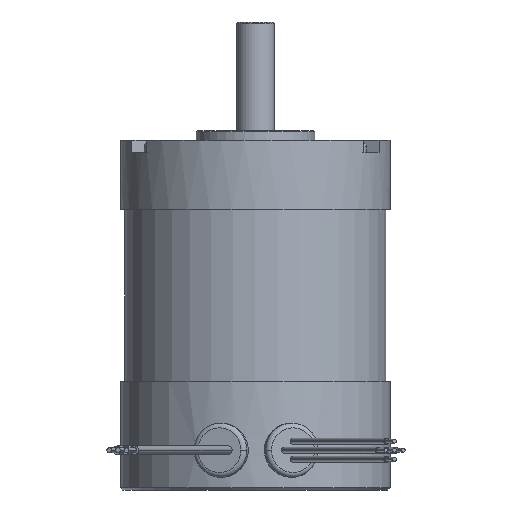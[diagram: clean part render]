
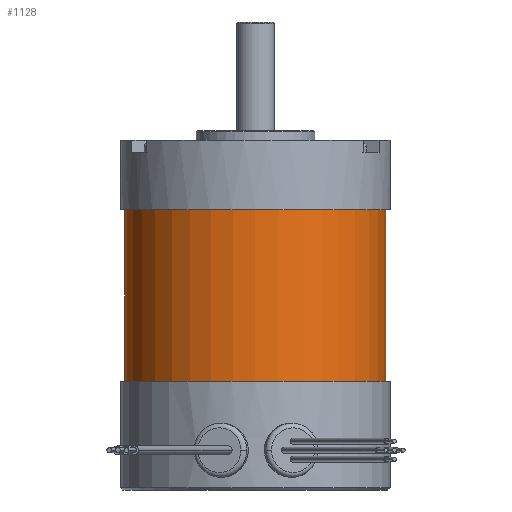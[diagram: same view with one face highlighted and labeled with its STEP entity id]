
A CAD part, front view. The second image highlights one B-rep face of the part: STEP entity #1128.
In plain terms, the highlighted cylindrical face has radius 27.495 mm (diameter 54.991 mm), a partial arc.
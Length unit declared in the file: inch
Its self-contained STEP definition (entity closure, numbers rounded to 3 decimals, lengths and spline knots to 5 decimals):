
#78 = EDGE_CURVE ( 'NONE', #3099, #6095, #13302, .T. ) ;
#664 = CARTESIAN_POINT ( 'NONE',  ( -1.0825, 0., -2. ) ) ;
#1128 = ADVANCED_FACE ( 'NONE', ( #9171 ), #2461, .T. ) ;
#1421 = EDGE_CURVE ( 'NONE', #1838, #6095, #10731, .T. ) ;
#1449 = EDGE_CURVE ( 'NONE', #9338, #3099, #13070, .T. ) ;
#1462 = CARTESIAN_POINT ( 'NONE',  ( 0., 0., -2. ) ) ;
#1773 = DIRECTION ( 'NONE',  ( 0., 0., -1. ) ) ;
#1838 = VERTEX_POINT ( 'NONE', #664 ) ;
#1993 = CARTESIAN_POINT ( 'NONE',  ( 1.0825, 0., -0.575 ) ) ;
#2226 = DIRECTION ( 'NONE',  ( 1., 0., 0. ) ) ;
#2461 = CYLINDRICAL_SURFACE ( 'NONE', #13257, 1.0825 ) ;
#2839 = CIRCLE ( 'NONE', #9736, 1.0825 ) ;
#3099 = VERTEX_POINT ( 'NONE', #1993 ) ;
#3711 = ORIENTED_EDGE ( 'NONE', *, *, #1421, .F. ) ;
#5736 = DIRECTION ( 'NONE',  ( 0., 0., -1. ) ) ;
#6095 = VERTEX_POINT ( 'NONE', #8773 ) ;
#6190 = EDGE_CURVE ( 'NONE', #9338, #1838, #2839, .T. ) ;
#6692 = ORIENTED_EDGE ( 'NONE', *, *, #6190, .F. ) ;
#6751 = CARTESIAN_POINT ( 'NONE',  ( 0., 0., -0.575 ) ) ;
#7890 = CARTESIAN_POINT ( 'NONE',  ( 1.0825, 0., -2. ) ) ;
#7976 = CARTESIAN_POINT ( 'NONE',  ( 0., 0., -2. ) ) ;
#8076 = VECTOR ( 'NONE', #10171, 39.37008 ) ;
#8773 = CARTESIAN_POINT ( 'NONE',  ( -1.0825, 0., -0.575 ) ) ;
#8801 = AXIS2_PLACEMENT_3D ( 'NONE', #6751, #5736, #9737 ) ;
#8982 = DIRECTION ( 'NONE',  ( -1., 0., 0. ) ) ;
#9171 = FACE_OUTER_BOUND ( 'NONE', #9723, .T. ) ;
#9338 = VERTEX_POINT ( 'NONE', #7890 ) ;
#9699 = ORIENTED_EDGE ( 'NONE', *, *, #78, .T. ) ;
#9703 = DIRECTION ( 'NONE',  ( 0., 0., 1. ) ) ;
#9723 = EDGE_LOOP ( 'NONE', ( #3711, #6692, #12324, #9699 ) ) ;
#9736 = AXIS2_PLACEMENT_3D ( 'NONE', #7976, #1773, #8982 ) ;
#9737 = DIRECTION ( 'NONE',  ( -1., 0., 0. ) ) ;
#9884 = CARTESIAN_POINT ( 'NONE',  ( 1.0825, 0., -2. ) ) ;
#10171 = DIRECTION ( 'NONE',  ( 0., 0., 1. ) ) ;
#10250 = CARTESIAN_POINT ( 'NONE',  ( -1.0825, 0., -2. ) ) ;
#10731 = LINE ( 'NONE', #10250, #8076 ) ;
#11649 = DIRECTION ( 'NONE',  ( 0., 0., 1. ) ) ;
#12324 = ORIENTED_EDGE ( 'NONE', *, *, #1449, .T. ) ;
#12748 = VECTOR ( 'NONE', #9703, 39.37008 ) ;
#13070 = LINE ( 'NONE', #9884, #12748 ) ;
#13257 = AXIS2_PLACEMENT_3D ( 'NONE', #1462, #11649, #2226 ) ;
#13302 = CIRCLE ( 'NONE', #8801, 1.0825 ) ;
